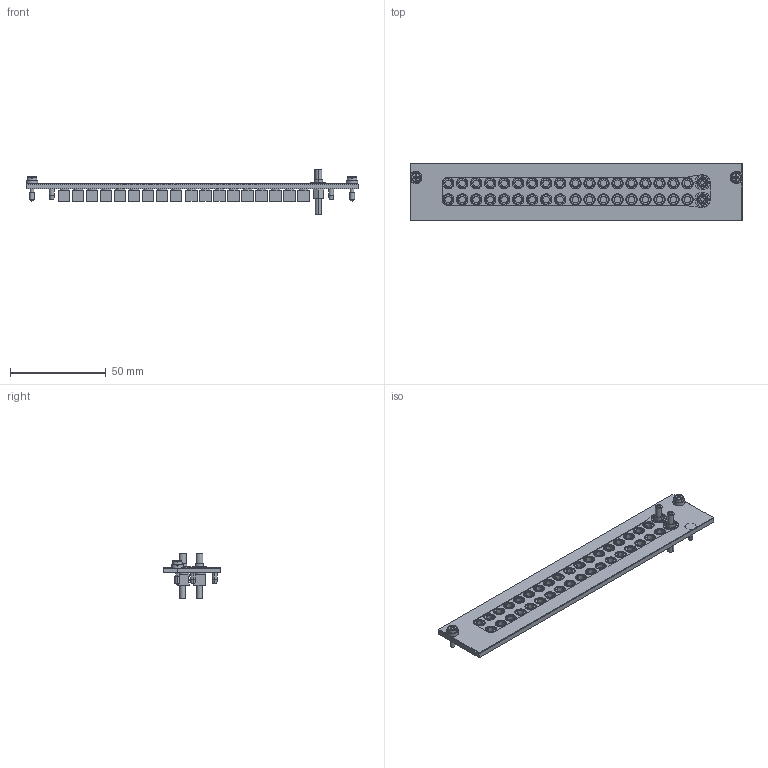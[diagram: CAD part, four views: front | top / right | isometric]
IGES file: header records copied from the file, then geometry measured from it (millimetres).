
Start section:  PTC IGES file: cu_scxi-1193.igs
Global section: file name: cu_scxi-1193.igs; native system: Pro/ENGINEER by Parametric Technology Corporation; preprocessor: 2006080; author: jjorden; organization: Unknown; date: 091130.092705; units: inch
Bounding box: 173.02 x 30.18 x 23.5 mm (x, y, z)
Surface area: 23590.5 mm2 (no closed solid volume)
Topology: 0 solids, 0 shells, 1335 faces, 6680 edges, 6676 vertices
Faces by surface type: bspline 917, revolution 418
